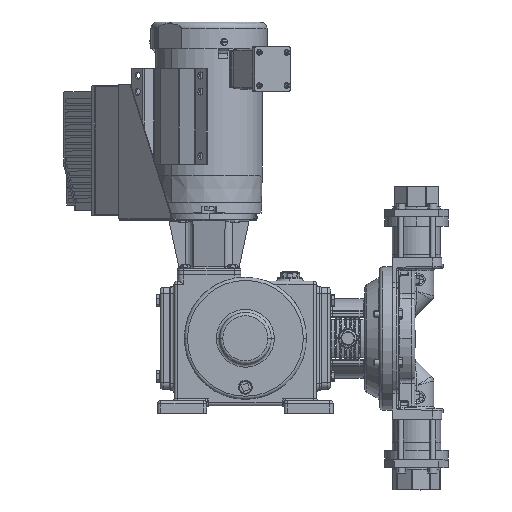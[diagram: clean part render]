
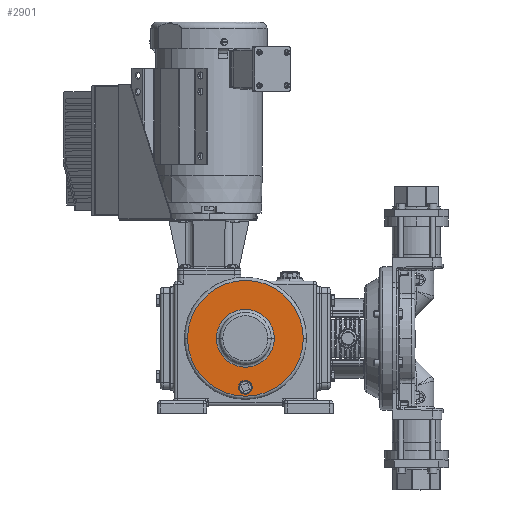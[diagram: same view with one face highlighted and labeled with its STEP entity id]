
A CAD part, top view. The second image highlights one B-rep face of the part: STEP entity #2901.
In plain terms, the highlighted planar face has unit normal (0, 0, 1).
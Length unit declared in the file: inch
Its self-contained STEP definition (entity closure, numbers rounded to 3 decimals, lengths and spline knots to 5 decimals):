
#2901 = ADVANCED_FACE ( 'NONE', ( #4037, #72564, #118506 ), #48505, .T. ) ;
#4037 = FACE_BOUND ( 'NONE', #43627, .T. ) ;
#5519 = DIRECTION ( 'NONE',  ( 1., 0., 0. ) ) ;
#5946 = AXIS2_PLACEMENT_3D ( 'NONE', #36585, #24545, #34371 ) ;
#6004 = CARTESIAN_POINT ( 'NONE',  ( -11.05231, -3.49501, 10.08374 ) ) ;
#6124 = EDGE_CURVE ( 'NONE', #104996, #66479, #8329, .T. ) ;
#8329 = CIRCLE ( 'NONE', #5946, 3.58268 ) ;
#16084 = EDGE_CURVE ( 'NONE', #66479, #104996, #113873, .T. ) ;
#17300 = AXIS2_PLACEMENT_3D ( 'NONE', #38563, #54336, #131919 ) ;
#19770 = CIRCLE ( 'NONE', #17300, 0.43347 ) ;
#20184 = EDGE_LOOP ( 'NONE', ( #142912, #143819 ) ) ;
#22830 = DIRECTION ( 'NONE',  ( 0., 0., 1. ) ) ;
#23693 = CIRCLE ( 'NONE', #42927, 1.79134 ) ;
#24545 = DIRECTION ( 'NONE',  ( 0., 0., 1. ) ) ;
#27628 = CIRCLE ( 'NONE', #85347, 0.43347 ) ;
#28344 = VERTEX_POINT ( 'NONE', #48621 ) ;
#34371 = DIRECTION ( 'NONE',  ( 1., 0., 0. ) ) ;
#36585 = CARTESIAN_POINT ( 'NONE',  ( -10.61884, -0.46351, 10.08374 ) ) ;
#36604 = CARTESIAN_POINT ( 'NONE',  ( -10.18537, -3.49501, 10.08374 ) ) ;
#38563 = CARTESIAN_POINT ( 'NONE',  ( -10.61884, -3.49501, 10.08374 ) ) ;
#41146 = DIRECTION ( 'NONE',  ( 1., 0., 0. ) ) ;
#42927 = AXIS2_PLACEMENT_3D ( 'NONE', #144307, #133017, #41146 ) ;
#43627 = EDGE_LOOP ( 'NONE', ( #101023, #115952 ) ) ;
#47079 = EDGE_LOOP ( 'NONE', ( #106228, #88385 ) ) ;
#48505 = PLANE ( 'NONE',  #104350 ) ;
#48621 = CARTESIAN_POINT ( 'NONE',  ( -12.41018, -0.46351, 10.08374 ) ) ;
#49884 = AXIS2_PLACEMENT_3D ( 'NONE', #88687, #52573, #109785 ) ;
#52573 = DIRECTION ( 'NONE',  ( 0., 0., -1. ) ) ;
#53374 = VERTEX_POINT ( 'NONE', #119185 ) ;
#54336 = DIRECTION ( 'NONE',  ( 0., 0., 1. ) ) ;
#66205 = CARTESIAN_POINT ( 'NONE',  ( -10.61884, -0.46351, 10.08374 ) ) ;
#66479 = VERTEX_POINT ( 'NONE', #74589 ) ;
#71105 = DIRECTION ( 'NONE',  ( 0., 0., 1. ) ) ;
#71496 = CIRCLE ( 'NONE', #49884, 1.79134 ) ;
#72564 = FACE_OUTER_BOUND ( 'NONE', #47079, .T. ) ;
#74589 = CARTESIAN_POINT ( 'NONE',  ( -7.03616, -0.46351, 10.08374 ) ) ;
#78769 = VERTEX_POINT ( 'NONE', #6004 ) ;
#80821 = CARTESIAN_POINT ( 'NONE',  ( -10.61884, -3.49501, 10.08374 ) ) ;
#85347 = AXIS2_PLACEMENT_3D ( 'NONE', #80821, #22830, #127468 ) ;
#86571 = DIRECTION ( 'NONE',  ( 1., 0., 0. ) ) ;
#88385 = ORIENTED_EDGE ( 'NONE', *, *, #6124, .T. ) ;
#88687 = CARTESIAN_POINT ( 'NONE',  ( -10.61884, -0.46351, 10.08374 ) ) ;
#94106 = EDGE_CURVE ( 'NONE', #131113, #78769, #27628, .T. ) ;
#95896 = CARTESIAN_POINT ( 'NONE',  ( -10.61884, -0.46351, 10.08374 ) ) ;
#101023 = ORIENTED_EDGE ( 'NONE', *, *, #94106, .F. ) ;
#104328 = AXIS2_PLACEMENT_3D ( 'NONE', #66205, #134735, #86571 ) ;
#104350 = AXIS2_PLACEMENT_3D ( 'NONE', #95896, #71105, #5519 ) ;
#104920 = EDGE_CURVE ( 'NONE', #28344, #53374, #23693, .T. ) ;
#104996 = VERTEX_POINT ( 'NONE', #122282 ) ;
#106228 = ORIENTED_EDGE ( 'NONE', *, *, #16084, .T. ) ;
#109785 = DIRECTION ( 'NONE',  ( 1., 0., 0. ) ) ;
#113873 = CIRCLE ( 'NONE', #104328, 3.58268 ) ;
#115932 = EDGE_CURVE ( 'NONE', #53374, #28344, #71496, .T. ) ;
#115952 = ORIENTED_EDGE ( 'NONE', *, *, #142278, .F. ) ;
#118506 = FACE_BOUND ( 'NONE', #20184, .T. ) ;
#119185 = CARTESIAN_POINT ( 'NONE',  ( -8.8275, -0.46351, 10.08374 ) ) ;
#122282 = CARTESIAN_POINT ( 'NONE',  ( -14.20152, -0.46351, 10.08374 ) ) ;
#127468 = DIRECTION ( 'NONE',  ( 1., 0., 0. ) ) ;
#131113 = VERTEX_POINT ( 'NONE', #36604 ) ;
#131919 = DIRECTION ( 'NONE',  ( 1., 0., 0. ) ) ;
#133017 = DIRECTION ( 'NONE',  ( 0., 0., -1. ) ) ;
#134735 = DIRECTION ( 'NONE',  ( 0., 0., 1. ) ) ;
#142278 = EDGE_CURVE ( 'NONE', #78769, #131113, #19770, .T. ) ;
#142912 = ORIENTED_EDGE ( 'NONE', *, *, #115932, .T. ) ;
#143819 = ORIENTED_EDGE ( 'NONE', *, *, #104920, .T. ) ;
#144307 = CARTESIAN_POINT ( 'NONE',  ( -10.61884, -0.46351, 10.08374 ) ) ;
